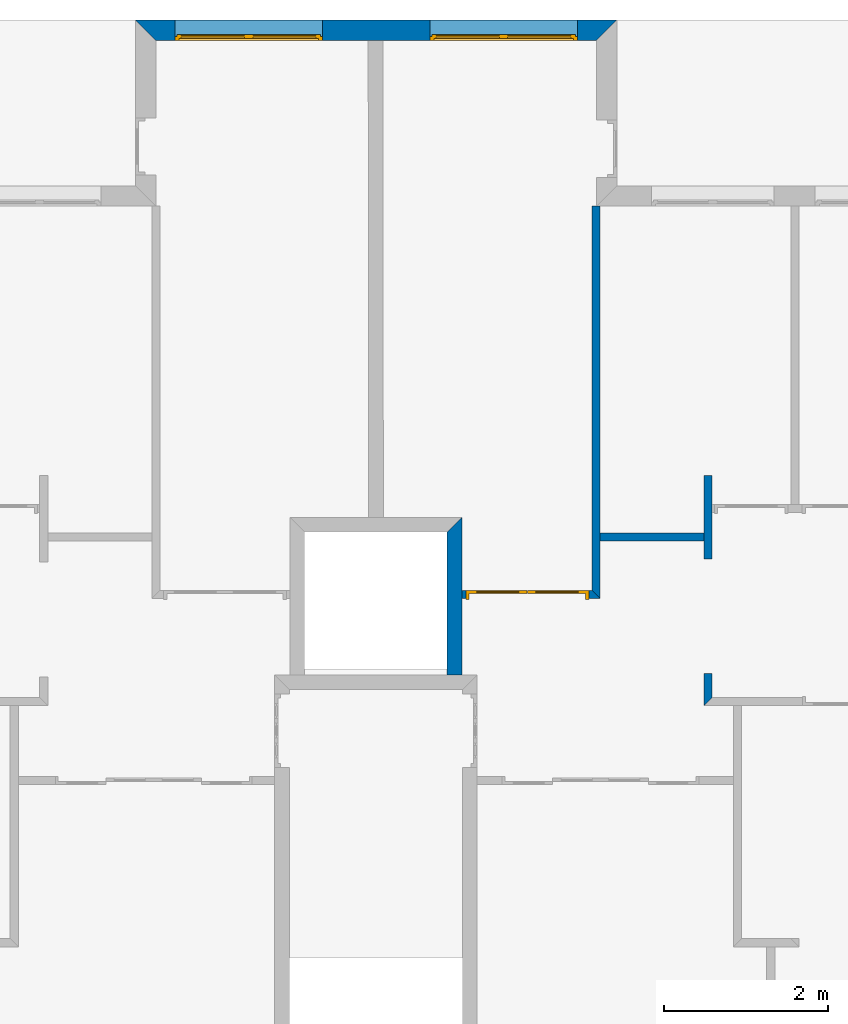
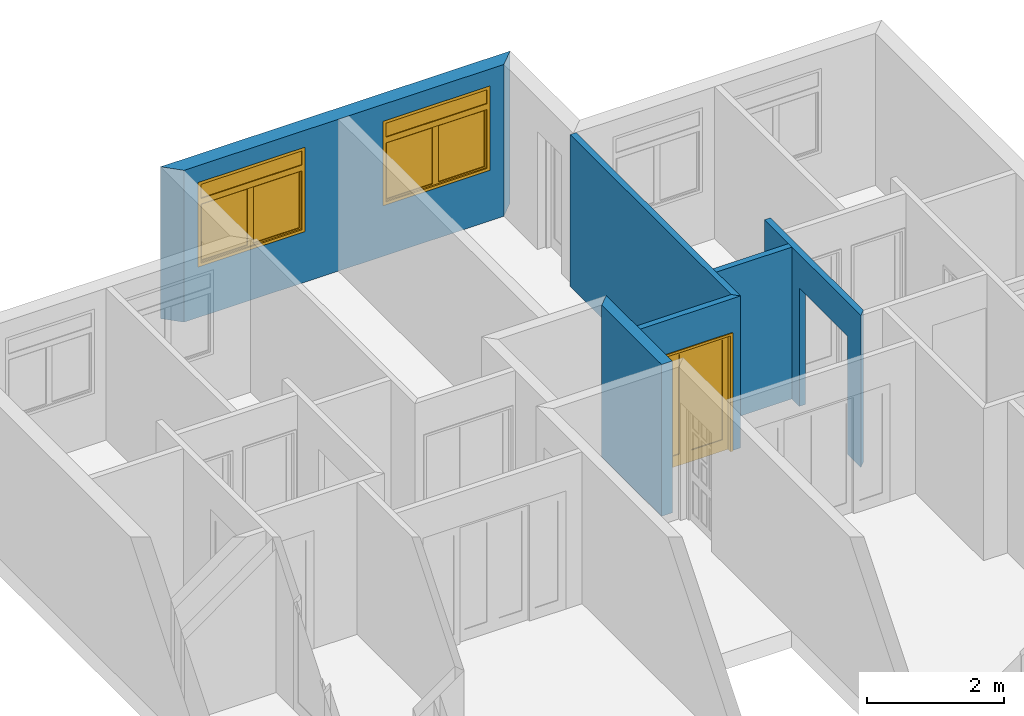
# One storey, part 11 of 12: 6 walls, 2 windows, 1 door, 4 openings.
"""IFC2X3 building model written with IfcOpenShell, lengths in metres."""

from ifc_helpers import new_model, entity, si_unit, converted_unit, direction, frame, frame_2d, origin_with_axes, place, context, project, spatial, polyline, rectangle, outline, extrude, faceted_brep, source, transform, mapped, material, layer, layer_set, layer_usage, type_object, element, fill, save


model = new_model("IFC2X3")

# Units and contexts
context_of_model = context(None, 3, precision=1e-05, world=origin_with_axes(), true_north=direction((6.123234e-17, 1.0)))
plan_context = context("Plan", 3, precision=1e-05, world=origin_with_axes(), true_north=direction((6.123234e-17, 1.0)))
model_context = context("Model", 3, precision=1e-05, world=origin_with_axes(), true_north=direction((6.123234e-17, 1.0)))
ifc_project = project(units=[si_unit("LENGTHUNIT", "METRE"), si_unit("AREAUNIT", "SQUARE_METRE"), si_unit("VOLUMEUNIT", "CUBIC_METRE"), converted_unit("PLANEANGLEUNIT", "DEGREE", entity("IfcPlaneAngleMeasure", 0.017453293), si_unit("PLANEANGLEUNIT", "RADIAN"), dimensions=[0, 0, 0, 0, 0, 0, 0]), si_unit("SOLIDANGLEUNIT", "STERADIAN"), si_unit("MASSUNIT", "GRAM"), si_unit("TIMEUNIT", "SECOND"), si_unit("THERMODYNAMICTEMPERATUREUNIT", "DEGREE_CELSIUS"), si_unit("LUMINOUSINTENSITYUNIT", "LUMEN")], contexts=[context_of_model, plan_context, model_context])

# Site, building, storey
site_placement = place(None, origin_with_axes())
site = spatial("IfcSite", under=ifc_project, at=site_placement, Name="Por defecto Sitio", CompositionType="ELEMENT")
building_placement = place(site_placement, origin_with_axes())
building = spatial("IfcBuilding", under=site, at=building_placement, Name="Por defecto Edificio", CompositionType="ELEMENT")
storey_placement = place(building_placement, frame((0.0, 0.0, 10.2), z_axis=(0.0, 0.0, 1.0), x_axis=(1.0, 0.0, 0.0)))
storey = spatial("IfcBuildingStorey", under=building, at=storey_placement, Name="Tercera", CompositionType="ELEMENT", Elevation=10.2)

# Wall, openings, windows
ifc_material = material(Name="Ladrillo común")
ifc_layer_1 = layer(ifc_material, 0.25, ventilated="UNKNOWN")
ifc_layer_set_1 = layer_set([ifc_layer_1], Name="Ladrillo común")
ifc_layer_usage_1 = layer_usage(ifc_layer_set_1, "AXIS2", "NEGATIVE", 0.0)
wall_type_1 = type_object("IfcWallType", Name="Ladrillo común", PredefinedType="NOTDEFINED")
wall_1_placement = place(storey_placement, frame((5.0781164, 15.472599, 0.0), z_axis=(0.0, 0.0, 1.0), x_axis=(1.0, 0.0, 0.0)))
wall_1 = element("IfcWallStandardCase", 1, at=wall_1_placement, inside=storey, type_object=wall_type_1, material=ifc_layer_usage_1, Name="Muro-014", context=context_of_model, shape_type="SweptSolid", body=[
    extrude(outline(polyline([(0.25, -0.25), (5.627937, -0.25), (5.877937, 0.0), (0.0, 0.0), (0.25, -0.25)])), origin_with_axes(), (0.0, 0.0, 1.0), 2.7),
])
opening_1_placement = place(wall_1_placement, frame((1.3828517, -0.25, 0.9), z_axis=(0.0, 0.0, 1.0), x_axis=(1.0, 0.0, 0.0)))
opening_1 = element("IfcOpeningElement", 2, at=opening_1_placement, cuts=wall_1, ObjectType="Opening", context=model_context, shape_type="SweptSolid", body=[
    extrude(rectangle(XDim=1.8, YDim=1.5, at=frame_2d((4.4408921e-16, 0.75), x_axis=(-1.0, 0.0))), frame((0.0, 0.0, 0.0), z_axis=(0.0, 1.0, 0.0), x_axis=(-1.0, 0.0, 0.0)), (0.0, 0.0, 1.0), 0.25),
])
opening_2_placement = place(wall_1_placement, frame((4.4950854, -0.25, 0.9), z_axis=(0.0, 0.0, 1.0), x_axis=(1.0, 0.0, 0.0)))
opening_2 = element("IfcOpeningElement", 3, at=opening_2_placement, cuts=wall_1, ObjectType="Opening", context=model_context, shape_type="SweptSolid", body=[
    extrude(rectangle(XDim=1.8, YDim=1.5, at=frame_2d((0.0, 0.75), x_axis=(1.0, 0.0))), frame((0.0, 0.0, 0.0), z_axis=(0.0, 1.0, 0.0), x_axis=(-1.0, 0.0, 0.0)), (0.0, 0.0, 1.0), 0.25),
])
window_style_1 = type_object("IfcWindowStyle", Name="V M Doble 12", ConstructionType="NOTDEFINED", OperationType="DOUBLE_PANEL_HORIZONTAL", ParameterTakesPrecedence=False, Sizeable=False)
shared_shape_1 = source(origin_with_axes(), model_context, "Body", "Brep", [
    faceted_brep([(0.025, 0.05, 0.05), (0.0, 0.05, 0.05), (0.0, 0.05, 1.45), (0.05, 0.05, 1.45), (0.05, 0.05, 1.2), (0.05, 0.05, 1.125), (0.025, 0.05, 1.125), (0.025, 0.025, 0.05), (0.05, 0.025, 0.05), (0.05, 0.0, 0.05), (0.0, 0.0, 0.05), (0.0, 0.0, 1.45), (0.05, 0.0, 1.45), (0.05, 0.0, 1.2), (0.05, 0.025, 1.125), (0.05, 0.0, 1.1), (0.05, 0.025, 1.1), (0.025, 0.025, 1.125)], [[[0, 1, 2, 3, 4, 5, 6]], [[7, 8, 9, 10, 1, 0]], [[2, 1, 10, 11]], [[3, 2, 11, 12]], [[4, 3, 12, 13]], [[14, 5, 4, 13, 15, 16]], [[14, 17, 6, 5]], [[6, 17, 7, 0]], [[16, 8, 7, 17, 14]], [[16, 15, 9, 8]], [[13, 12, 11, 10, 9, 15]]]),
    faceted_brep([(1.775, 0.05, 1.125), (1.75, 0.05, 1.125), (1.75, 0.05, 1.2), (1.75, 0.05, 1.45), (1.8, 0.05, 1.45), (1.8, 0.05, 0.05), (1.775, 0.05, 0.05), (1.775, 0.025, 1.125), (1.75, 0.025, 1.125), (1.75, 0.025, 1.1), (1.75, 0.0, 1.1), (1.75, 0.0, 1.2), (1.75, 0.0, 1.45), (1.8, 0.0, 1.45), (1.8, 0.0, 0.05), (1.775, 0.025, 0.05), (1.75, 0.0, 0.05), (1.75, 0.025, 0.05)], [[[0, 1, 2, 3, 4, 5, 6]], [[0, 7, 8, 1]], [[8, 9, 10, 11, 2, 1]], [[3, 2, 11, 12]], [[4, 3, 12, 13]], [[5, 4, 13, 14]], [[15, 6, 5, 14, 16, 17]], [[6, 15, 7, 0]], [[17, 9, 8, 7, 15]], [[17, 16, 10, 9]], [[14, 13, 12, 11, 10, 16]]]),
    faceted_brep([(0.05, 0.05, 1.125), (0.05, 0.05, 1.2), (1.75, 0.05, 1.2), (1.75, 0.05, 1.125), (0.9, 0.05, 1.125), (0.05, 0.025, 1.125), (0.05, 0.025, 1.1), (0.05, 0.0, 1.1), (0.05, 0.0, 1.2), (1.75, 0.0, 1.2), (1.75, 0.025, 1.125), (1.75, 0.0, 1.1), (1.75, 0.025, 1.1), (0.9, 0.025, 1.125)], [[[0, 1, 2, 3, 4]], [[5, 6, 7, 8, 1, 0]], [[2, 1, 8, 9]], [[10, 3, 2, 9, 11, 12]], [[10, 13, 4, 3]], [[4, 13, 5, 0]], [[12, 6, 5, 13, 10]], [[12, 11, 7, 6]], [[9, 8, 7, 11]]]),
    faceted_brep([(1.75, 0.025, 0.05), (1.75, 0.0, 0.05), (1.8, 0.0, 0.05), (1.8, 0.05, 0.05), (1.775, 0.05, 0.05), (1.775, 0.025, 0.05), (0.05, 0.025, 0.05), (0.05, 0.0, 0.05), (0.0, 0.0, 0.05), (0.0, 0.0, 0.0), (1.8, 0.0, 0.0), (1.8, 0.05, 0.0), (0.025, 0.05, 0.025), (0.9, 0.05, 0.025), (1.775, 0.05, 0.025), (0.0, 0.05, 0.0), (0.0, 0.05, 0.05), (0.025, 0.05, 0.05), (1.775, 0.025, 0.025), (0.9, 0.025, 0.025), (0.025, 0.025, 0.025), (0.025, 0.025, 0.05)], [[[0, 1, 2, 3, 4, 5]], [[6, 7, 1, 0]], [[8, 9, 10, 2, 1, 7]], [[11, 3, 2, 10]], [[12, 13, 14, 4, 3, 11, 15, 16, 17]], [[14, 18, 5, 4]], [[5, 18, 19, 20, 21, 6, 0]], [[21, 17, 16, 8, 7, 6]], [[16, 15, 9, 8]], [[15, 11, 10, 9]], [[12, 20, 19, 13]], [[13, 19, 18, 14]], [[21, 20, 12, 17]]]),
    faceted_brep([(1.75, 0.0, 1.45), (1.75, 0.05, 1.45), (1.8, 0.05, 1.45), (1.8, 0.0, 1.45), (0.05, 0.0, 1.45), (0.05, 0.05, 1.45), (0.0, 0.05, 1.45), (0.0, 0.05, 1.5), (1.8, 0.05, 1.5), (1.8, 0.0, 1.5), (0.0, 0.0, 1.5), (0.0, 0.0, 1.45)], [[[0, 1, 2, 3]], [[4, 5, 1, 0]], [[1, 5, 6, 7, 8, 2]], [[3, 2, 8, 9]], [[0, 3, 9, 10, 11, 4]], [[11, 6, 5, 4]], [[10, 7, 6, 11]], [[9, 8, 7, 10]]]),
    faceted_brep([(1.725, 0.025, 0.075), (1.725, 0.025, 1.075), (1.725, 0.075, 1.075), (1.725, 0.075, 0.075), (1.775, 0.025, 0.075), (1.775, 0.025, 1.075), (1.775, 0.075, 1.075), (1.775, 0.075, 0.075)], [[[0, 1, 2, 3]], [[0, 4, 5, 1]], [[1, 5, 6, 2]], [[3, 2, 6, 7]], [[4, 0, 3, 7]], [[5, 4, 7, 6]]]),
    faceted_brep([(0.9, 0.025, 0.075), (0.9, 0.025, 1.075), (0.9, 0.075, 1.075), (0.9, 0.075, 0.075), (0.95, 0.025, 0.075), (0.95, 0.025, 1.075), (0.95, 0.075, 1.075), (0.95, 0.075, 0.075)], [[[0, 1, 2, 3]], [[0, 4, 5, 1]], [[1, 5, 6, 2]], [[3, 2, 6, 7]], [[4, 0, 3, 7]], [[5, 4, 7, 6]]]),
    faceted_brep([(0.9, 0.025, 0.025), (0.9, 0.025, 0.075), (0.9, 0.075, 0.075), (0.9, 0.075, 0.025), (1.775, 0.025, 0.025), (1.775, 0.025, 0.075), (1.725, 0.025, 0.075), (0.95, 0.025, 0.075), (0.95, 0.075, 0.075), (1.725, 0.075, 0.075), (1.775, 0.075, 0.075), (1.775, 0.075, 0.025)], [[[0, 1, 2, 3]], [[0, 4, 5, 6, 7, 1]], [[1, 7, 8, 2]], [[3, 2, 8, 9, 10, 11]], [[4, 0, 3, 11]], [[5, 4, 11, 10]], [[6, 5, 10, 9]], [[7, 6, 9, 8]]]),
    faceted_brep([(1.775, 0.025, 1.125), (1.775, 0.025, 1.075), (1.775, 0.075, 1.075), (1.775, 0.075, 1.125), (0.9, 0.025, 1.125), (0.9, 0.025, 1.075), (0.95, 0.025, 1.075), (1.725, 0.025, 1.075), (1.725, 0.075, 1.075), (0.95, 0.075, 1.075), (0.9, 0.075, 1.075), (0.9, 0.075, 1.125)], [[[0, 1, 2, 3]], [[0, 4, 5, 6, 7, 1]], [[1, 7, 8, 2]], [[3, 2, 8, 9, 10, 11]], [[4, 0, 3, 11]], [[5, 4, 11, 10]], [[6, 5, 10, 9]], [[7, 6, 9, 8]]]),
    faceted_brep([(1.725, 0.04, 0.075), (0.95, 0.04, 0.075), (0.95, 0.06, 0.075), (1.725, 0.06, 0.075), (1.725, 0.04, 1.075), (0.95, 0.04, 1.075), (0.95, 0.06, 1.075), (1.725, 0.06, 1.075)], [[[0, 1, 2, 3]], [[0, 4, 5, 1]], [[1, 5, 6, 2]], [[3, 2, 6, 7]], [[4, 0, 3, 7]], [[5, 4, 7, 6]]]),
    faceted_brep([(0.85, 0.025, 0.075), (0.85, 0.025, 1.075), (0.85, 0.075, 1.075), (0.85, 0.075, 0.075), (0.9, 0.025, 0.075), (0.9, 0.025, 1.075), (0.9, 0.075, 1.075), (0.9, 0.075, 0.075)], [[[0, 1, 2, 3]], [[0, 4, 5, 1]], [[1, 5, 6, 2]], [[3, 2, 6, 7]], [[4, 0, 3, 7]], [[5, 4, 7, 6]]]),
    faceted_brep([(0.025, 0.025, 0.075), (0.025, 0.025, 1.075), (0.025, 0.075, 1.075), (0.025, 0.075, 0.075), (0.075, 0.025, 0.075), (0.075, 0.025, 1.075), (0.075, 0.075, 1.075), (0.075, 0.075, 0.075)], [[[0, 1, 2, 3]], [[0, 4, 5, 1]], [[1, 5, 6, 2]], [[3, 2, 6, 7]], [[4, 0, 3, 7]], [[5, 4, 7, 6]]]),
    faceted_brep([(0.025, 0.025, 0.025), (0.025, 0.025, 0.075), (0.025, 0.075, 0.075), (0.025, 0.075, 0.025), (0.9, 0.025, 0.025), (0.9, 0.025, 0.075), (0.85, 0.025, 0.075), (0.075, 0.025, 0.075), (0.075, 0.075, 0.075), (0.85, 0.075, 0.075), (0.9, 0.075, 0.075), (0.9, 0.075, 0.025)], [[[0, 1, 2, 3]], [[0, 4, 5, 6, 7, 1]], [[1, 7, 8, 2]], [[3, 2, 8, 9, 10, 11]], [[4, 0, 3, 11]], [[5, 4, 11, 10]], [[6, 5, 10, 9]], [[7, 6, 9, 8]]]),
    faceted_brep([(0.9, 0.025, 1.125), (0.9, 0.025, 1.075), (0.9, 0.075, 1.075), (0.9, 0.075, 1.125), (0.025, 0.025, 1.125), (0.025, 0.025, 1.075), (0.075, 0.025, 1.075), (0.85, 0.025, 1.075), (0.85, 0.075, 1.075), (0.075, 0.075, 1.075), (0.025, 0.075, 1.075), (0.025, 0.075, 1.125)], [[[0, 1, 2, 3]], [[0, 4, 5, 6, 7, 1]], [[1, 7, 8, 2]], [[3, 2, 8, 9, 10, 11]], [[4, 0, 3, 11]], [[5, 4, 11, 10]], [[6, 5, 10, 9]], [[7, 6, 9, 8]]]),
    faceted_brep([(0.85, 0.04, 0.075), (0.075, 0.04, 0.075), (0.075, 0.06, 0.075), (0.85, 0.06, 0.075), (0.85, 0.04, 1.075), (0.075, 0.04, 1.075), (0.075, 0.06, 1.075), (0.85, 0.06, 1.075)], [[[0, 1, 2, 3]], [[0, 4, 5, 1]], [[1, 5, 6, 2]], [[3, 2, 6, 7]], [[4, 0, 3, 7]], [[5, 4, 7, 6]]]),
    faceted_brep([(1.75, 0.015, 1.2), (0.05, 0.015, 1.2), (0.05, 0.035, 1.2), (1.75, 0.035, 1.2), (1.75, 0.015, 1.45), (0.05, 0.015, 1.45), (0.05, 0.035, 1.45), (1.75, 0.035, 1.45)], [[[0, 1, 2, 3]], [[0, 4, 5, 1]], [[1, 5, 6, 2]], [[3, 2, 6, 7]], [[4, 0, 3, 7]], [[5, 4, 7, 6]]]),
])
window_1_placement = place(opening_1_placement, frame((-0.9, 0.0, 0.0), z_axis=(0.0, 0.0, 1.0), x_axis=(1.0, 0.0, 0.0)))
window_1 = element("IfcWindow", 4, at=window_1_placement, inside=storey, type_object=window_style_1, Name="V03", OverallHeight=1.5, OverallWidth=1.8, context=model_context, shape_type="MappedRepresentation", body=[
    mapped(shared_shape_1, transform((0.0, 0.0, 0.0), scale=1.0)),
])
fill(opening_1, window_1)
window_style_2 = type_object("IfcWindowStyle", Name="V M Doble 12", ConstructionType="NOTDEFINED", OperationType="DOUBLE_PANEL_HORIZONTAL", ParameterTakesPrecedence=False, Sizeable=False)
shared_shape_2 = source(origin_with_axes(), model_context, "Body", "Brep", [
    faceted_brep([(1.775, 0.05, 0.05), (1.775, 0.05, 1.125), (1.75, 0.05, 1.125), (1.75, 0.05, 1.2), (1.75, 0.05, 1.45), (1.8, 0.05, 1.45), (1.8, 0.05, 0.05), (1.775, 0.025, 0.05), (1.775, 0.025, 1.125), (1.75, 0.025, 1.125), (1.75, 0.025, 1.1), (1.75, 0.0, 1.1), (1.75, 0.0, 1.2), (1.75, 0.0, 1.45), (1.8, 0.0, 1.45), (1.8, 0.0, 0.05), (1.75, 0.0, 0.05), (1.75, 0.025, 0.05)], [[[0, 1, 2, 3, 4, 5, 6]], [[1, 0, 7, 8]], [[9, 2, 1, 8]], [[9, 10, 11, 12, 3, 2]], [[3, 12, 13, 4]], [[4, 13, 14, 5]], [[5, 14, 15, 6]], [[7, 0, 6, 15, 16, 17]], [[10, 9, 8, 7, 17]], [[10, 17, 16, 11]], [[12, 11, 16, 15, 14, 13]]]),
    faceted_brep([(0.025, 0.05, 1.125), (0.025, 0.05, 0.05), (0.0, 0.05, 0.05), (0.0, 0.05, 1.45), (0.05, 0.05, 1.45), (0.05, 0.05, 1.2), (0.05, 0.05, 1.125), (0.025, 0.025, 1.125), (0.025, 0.025, 0.05), (0.05, 0.025, 0.05), (0.05, 0.0, 0.05), (0.0, 0.0, 0.05), (0.0, 0.0, 1.45), (0.05, 0.0, 1.45), (0.05, 0.0, 1.2), (0.05, 0.025, 1.125), (0.05, 0.0, 1.1), (0.05, 0.025, 1.1)], [[[0, 1, 2, 3, 4, 5, 6]], [[1, 0, 7, 8]], [[8, 9, 10, 11, 2, 1]], [[2, 11, 12, 3]], [[3, 12, 13, 4]], [[4, 13, 14, 5]], [[15, 6, 5, 14, 16, 17]], [[0, 6, 15, 7]], [[9, 8, 7, 15, 17]], [[9, 17, 16, 10]], [[11, 10, 16, 14, 13, 12]]]),
    faceted_brep([(1.75, 0.05, 1.125), (0.9, 0.05, 1.125), (0.05, 0.05, 1.125), (0.05, 0.05, 1.2), (1.75, 0.05, 1.2), (1.75, 0.025, 1.125), (0.9, 0.025, 1.125), (0.05, 0.025, 1.125), (0.05, 0.025, 1.1), (0.05, 0.0, 1.1), (0.05, 0.0, 1.2), (1.75, 0.0, 1.2), (1.75, 0.0, 1.1), (1.75, 0.025, 1.1)], [[[0, 1, 2, 3, 4]], [[1, 0, 5, 6]], [[7, 2, 1, 6]], [[7, 8, 9, 10, 3, 2]], [[3, 10, 11, 4]], [[5, 0, 4, 11, 12, 13]], [[8, 7, 6, 5, 13]], [[8, 13, 12, 9]], [[10, 9, 12, 11]]]),
    faceted_brep([(0.05, 0.025, 0.05), (0.025, 0.025, 0.05), (0.025, 0.05, 0.05), (0.0, 0.05, 0.05), (0.0, 0.0, 0.05), (0.05, 0.0, 0.05), (1.75, 0.025, 0.05), (1.775, 0.025, 0.05), (1.775, 0.025, 0.025), (0.9, 0.025, 0.025), (0.025, 0.025, 0.025), (0.025, 0.05, 0.025), (1.775, 0.05, 0.025), (1.775, 0.05, 0.05), (1.8, 0.05, 0.05), (1.8, 0.05, 0.0), (0.0, 0.05, 0.0), (0.9, 0.05, 0.025), (0.0, 0.0, 0.0), (1.8, 0.0, 0.05), (1.75, 0.0, 0.05), (1.8, 0.0, 0.0)], [[[0, 1, 2, 3, 4, 5]], [[1, 0, 6, 7, 8, 9, 10]], [[11, 2, 1, 10]], [[12, 13, 14, 15, 16, 3, 2, 11, 17]], [[16, 18, 4, 3]], [[19, 20, 5, 4, 18, 21]], [[6, 0, 5, 20]], [[7, 6, 20, 19, 14, 13]], [[7, 13, 12, 8]], [[12, 17, 9, 8]], [[17, 11, 10, 9]], [[14, 19, 21, 15]], [[15, 21, 18, 16]]]),
    faceted_brep([(0.05, 0.0, 1.45), (0.0, 0.0, 1.45), (0.0, 0.05, 1.45), (0.05, 0.05, 1.45), (1.75, 0.0, 1.45), (1.8, 0.0, 1.45), (1.8, 0.0, 1.5), (0.0, 0.0, 1.5), (0.0, 0.05, 1.5), (1.8, 0.05, 1.5), (1.8, 0.05, 1.45), (1.75, 0.05, 1.45)], [[[0, 1, 2, 3]], [[0, 4, 5, 6, 7, 1]], [[1, 7, 8, 2]], [[3, 2, 8, 9, 10, 11]], [[4, 0, 3, 11]], [[5, 4, 11, 10]], [[6, 5, 10, 9]], [[7, 6, 9, 8]]]),
    faceted_brep([(0.075, 0.025, 0.075), (0.075, 0.075, 0.075), (0.075, 0.075, 1.075), (0.075, 0.025, 1.075), (0.025, 0.025, 0.075), (0.025, 0.075, 0.075), (0.025, 0.075, 1.075), (0.025, 0.025, 1.075)], [[[0, 1, 2, 3]], [[4, 5, 1, 0]], [[1, 5, 6, 2]], [[3, 2, 6, 7]], [[0, 3, 7, 4]], [[7, 6, 5, 4]]]),
    faceted_brep([(0.9, 0.025, 0.075), (0.9, 0.075, 0.075), (0.9, 0.075, 1.075), (0.9, 0.025, 1.075), (0.85, 0.025, 0.075), (0.85, 0.075, 0.075), (0.85, 0.075, 1.075), (0.85, 0.025, 1.075)], [[[0, 1, 2, 3]], [[4, 5, 1, 0]], [[1, 5, 6, 2]], [[3, 2, 6, 7]], [[0, 3, 7, 4]], [[7, 6, 5, 4]]]),
    faceted_brep([(0.9, 0.025, 0.025), (0.9, 0.075, 0.025), (0.9, 0.075, 0.075), (0.9, 0.025, 0.075), (0.025, 0.025, 0.025), (0.025, 0.075, 0.025), (0.025, 0.075, 0.075), (0.075, 0.075, 0.075), (0.85, 0.075, 0.075), (0.85, 0.025, 0.075), (0.075, 0.025, 0.075), (0.025, 0.025, 0.075)], [[[0, 1, 2, 3]], [[4, 5, 1, 0]], [[1, 5, 6, 7, 8, 2]], [[3, 2, 8, 9]], [[0, 3, 9, 10, 11, 4]], [[11, 6, 5, 4]], [[10, 7, 6, 11]], [[9, 8, 7, 10]]]),
    faceted_brep([(0.025, 0.025, 1.125), (0.025, 0.075, 1.125), (0.025, 0.075, 1.075), (0.025, 0.025, 1.075), (0.9, 0.025, 1.125), (0.9, 0.075, 1.125), (0.9, 0.075, 1.075), (0.85, 0.075, 1.075), (0.075, 0.075, 1.075), (0.075, 0.025, 1.075), (0.85, 0.025, 1.075), (0.9, 0.025, 1.075)], [[[0, 1, 2, 3]], [[4, 5, 1, 0]], [[1, 5, 6, 7, 8, 2]], [[3, 2, 8, 9]], [[0, 3, 9, 10, 11, 4]], [[11, 6, 5, 4]], [[10, 7, 6, 11]], [[9, 8, 7, 10]]]),
    faceted_brep([(0.075, 0.04, 0.075), (0.075, 0.06, 0.075), (0.85, 0.06, 0.075), (0.85, 0.04, 0.075), (0.075, 0.04, 1.075), (0.075, 0.06, 1.075), (0.85, 0.06, 1.075), (0.85, 0.04, 1.075)], [[[0, 1, 2, 3]], [[4, 5, 1, 0]], [[1, 5, 6, 2]], [[3, 2, 6, 7]], [[0, 3, 7, 4]], [[7, 6, 5, 4]]]),
    faceted_brep([(0.95, 0.025, 0.075), (0.95, 0.075, 0.075), (0.95, 0.075, 1.075), (0.95, 0.025, 1.075), (0.9, 0.025, 0.075), (0.9, 0.075, 0.075), (0.9, 0.075, 1.075), (0.9, 0.025, 1.075)], [[[0, 1, 2, 3]], [[4, 5, 1, 0]], [[1, 5, 6, 2]], [[3, 2, 6, 7]], [[0, 3, 7, 4]], [[7, 6, 5, 4]]]),
    faceted_brep([(1.775, 0.025, 0.075), (1.775, 0.075, 0.075), (1.775, 0.075, 1.075), (1.775, 0.025, 1.075), (1.725, 0.025, 0.075), (1.725, 0.075, 0.075), (1.725, 0.075, 1.075), (1.725, 0.025, 1.075)], [[[0, 1, 2, 3]], [[4, 5, 1, 0]], [[1, 5, 6, 2]], [[3, 2, 6, 7]], [[0, 3, 7, 4]], [[7, 6, 5, 4]]]),
    faceted_brep([(1.775, 0.025, 0.025), (1.775, 0.075, 0.025), (1.775, 0.075, 0.075), (1.775, 0.025, 0.075), (0.9, 0.025, 0.025), (0.9, 0.075, 0.025), (0.9, 0.075, 0.075), (0.95, 0.075, 0.075), (1.725, 0.075, 0.075), (1.725, 0.025, 0.075), (0.95, 0.025, 0.075), (0.9, 0.025, 0.075)], [[[0, 1, 2, 3]], [[4, 5, 1, 0]], [[1, 5, 6, 7, 8, 2]], [[3, 2, 8, 9]], [[0, 3, 9, 10, 11, 4]], [[11, 6, 5, 4]], [[10, 7, 6, 11]], [[9, 8, 7, 10]]]),
    faceted_brep([(0.9, 0.025, 1.125), (0.9, 0.075, 1.125), (0.9, 0.075, 1.075), (0.9, 0.025, 1.075), (1.775, 0.025, 1.125), (1.775, 0.075, 1.125), (1.775, 0.075, 1.075), (1.725, 0.075, 1.075), (0.95, 0.075, 1.075), (0.95, 0.025, 1.075), (1.725, 0.025, 1.075), (1.775, 0.025, 1.075)], [[[0, 1, 2, 3]], [[4, 5, 1, 0]], [[1, 5, 6, 7, 8, 2]], [[3, 2, 8, 9]], [[0, 3, 9, 10, 11, 4]], [[11, 6, 5, 4]], [[10, 7, 6, 11]], [[9, 8, 7, 10]]]),
    faceted_brep([(0.95, 0.04, 0.075), (0.95, 0.06, 0.075), (1.725, 0.06, 0.075), (1.725, 0.04, 0.075), (0.95, 0.04, 1.075), (0.95, 0.06, 1.075), (1.725, 0.06, 1.075), (1.725, 0.04, 1.075)], [[[0, 1, 2, 3]], [[4, 5, 1, 0]], [[1, 5, 6, 2]], [[3, 2, 6, 7]], [[0, 3, 7, 4]], [[7, 6, 5, 4]]]),
    faceted_brep([(0.05, 0.015, 1.2), (0.05, 0.035, 1.2), (1.75, 0.035, 1.2), (1.75, 0.015, 1.2), (0.05, 0.015, 1.45), (0.05, 0.035, 1.45), (1.75, 0.035, 1.45), (1.75, 0.015, 1.45)], [[[0, 1, 2, 3]], [[4, 5, 1, 0]], [[1, 5, 6, 2]], [[3, 2, 6, 7]], [[0, 3, 7, 4]], [[7, 6, 5, 4]]]),
])
window_2_placement = place(opening_2_placement, frame((-0.9, 0.0, 0.0), z_axis=(0.0, 0.0, 1.0), x_axis=(1.0, 0.0, 0.0)))
window_2 = element("IfcWindow", 5, at=window_2_placement, inside=storey, type_object=window_style_2, Name="V04", OverallHeight=1.5, OverallWidth=1.8, context=model_context, shape_type="MappedRepresentation", body=[
    mapped(shared_shape_2, transform((0.0, 0.0, 0.0), scale=1.0)),
])
fill(opening_2, window_2)

# Walls
ifc_layer_2 = layer(ifc_material, 0.18, ventilated="UNKNOWN")
ifc_layer_set_2 = layer_set([ifc_layer_2], Name="Ladrillo común")
ifc_layer_usage_2 = layer_usage(ifc_layer_set_2, "AXIS2", "NEGATIVE", 0.0)
wall_type_2 = type_object("IfcWallType", Name="Ladrillo común", PredefinedType="NOTDEFINED")
wall_2_placement = place(storey_placement, frame((9.065, 9.4007615, 0.0), z_axis=(0.0, 0.0, 1.0), x_axis=(0.0, -1.0, 0.0)))
element("IfcWallStandardCase", 6, at=wall_2_placement, inside=storey, type_object=wall_type_2, material=ifc_layer_usage_2, Name="Muro-012", context=context_of_model, shape_type="SweptSolid", body=[
    extrude(outline(polyline([(0.18, -0.18), (1.9231052, -0.18), (1.9231052, 0.0), (0.0, 0.0), (0.18, -0.18)])), origin_with_axes(), (0.0, 0.0, 1.0), 2.7),
])
ifc_layer_3 = layer(ifc_material, 0.1, ventilated="UNKNOWN")
ifc_layer_set_3 = layer_set([ifc_layer_3], Name="Ladrillo común")
ifc_layer_usage_3 = layer_usage(ifc_layer_set_3, "AXIS2", "NEGATIVE", 0.0)
wall_type_3 = type_object("IfcWallType", Name="Ladrillo común", PredefinedType="NOTDEFINED")
wall_3_placement = place(storey_placement, frame((10.751884, 9.2109196, 0.0), z_axis=(0.0, 0.0, 1.0), x_axis=(1.0, 0.0, 0.0)))
element("IfcWallStandardCase", 7, at=wall_3_placement, inside=storey, type_object=wall_type_3, material=ifc_layer_usage_3, Name="Muro-027", context=context_of_model, shape_type="SweptSolid", body=[
    extrude(outline(polyline([(0.0, -0.1), (1.2679512, -0.1), (1.2679512, 0.0), (0.0, 0.0), (0.0, -0.1)])), origin_with_axes(), (0.0, 0.0, 1.0), 2.7),
])
ifc_layer_usage_4 = layer_usage(ifc_layer_set_3, "AXIS2", "POSITIVE", 0.0)
wall_4_placement = place(storey_placement, frame((10.751884, 8.5109196, 0.0), z_axis=(0.0, 0.0, 1.0), x_axis=(0.0, 1.0, 0.0)))
element("IfcWallStandardCase", 8, at=wall_4_placement, inside=storey, type_object=wall_type_3, material=ifc_layer_usage_4, Name="Muro-031", context=context_of_model, shape_type="SweptSolid", body=[
    extrude(outline(polyline([(-0.1, 0.0), (4.688253, 0.0), (4.688253, 0.1), (0.0, 0.1), (-0.1, 0.0)])), origin_with_axes(), (0.0, 0.0, 1.0), 2.7),
])

# Wall, opening
ifc_layer_usage_5 = layer_usage(ifc_layer_set_3, "AXIS2", "POSITIVE", 0.0)
wall_5_placement = place(storey_placement, frame((12.119835, 7.2022014, 0.0), z_axis=(0.0, 0.0, 1.0), x_axis=(0.0, 1.0, 0.0)))
wall_5 = element("IfcWallStandardCase", 9, at=wall_5_placement, inside=storey, type_object=wall_type_3, material=ifc_layer_usage_5, Name="Muro-025", context=context_of_model, shape_type="SweptSolid", body=[
    extrude(outline(polyline([(0.0, 0.0), (2.7087182, 0.0), (2.7087182, 0.1), (-0.1, 0.1), (0.0, 0.0)])), origin_with_axes(), (0.0, 0.0, 1.0), 2.7),
])
opening_3_placement = place(wall_5_placement, frame((0.99110899, 0.0, 0.0), z_axis=(0.0, 0.0, 1.0), x_axis=(1.0, 0.0, 0.0)))
element("IfcOpeningElement", 10, at=opening_3_placement, inside=storey, cuts=wall_5, ObjectType="Opening", context=model_context, shape_type="SweptSolid", body=[
    extrude(rectangle(XDim=1.4, YDim=2.1, at=frame_2d((4.4408921e-16, 1.05), x_axis=(-1.0, 0.0))), frame((0.0, 0.0, 0.0), z_axis=(0.0, 1.0, 0.0), x_axis=(-1.0, 0.0, 0.0)), (0.0, 0.0, 1.0), 0.1),
])

# Wall, opening, door
ifc_layer_usage_6 = layer_usage(ifc_layer_set_3, "AXIS2", "NEGATIVE", 0.0)
wall_6_placement = place(storey_placement, frame((9.065, 8.5109196, 0.0), z_axis=(0.0, 0.0, 1.0), x_axis=(1.0, 0.0, 0.0)))
wall_6 = element("IfcWallStandardCase", 11, at=wall_6_placement, inside=storey, type_object=wall_type_3, material=ifc_layer_usage_6, Name="Muro-028", context=context_of_model, shape_type="SweptSolid", body=[
    extrude(outline(polyline([(-1.7763568e-14, -0.1), (1.6868836, -0.1), (1.5868836, 0.0), (-1.7763568e-14, 0.0), (-1.7763568e-14, -0.1)])), origin_with_axes(), (0.0, 0.0, 1.0), 2.7),
])
opening_4_placement = place(wall_6_placement, frame((0.79761165, -0.1, 0.0), z_axis=(0.0, 0.0, 1.0), x_axis=(1.0, 0.0, 0.0)))
opening_4 = element("IfcOpeningElement", 12, at=opening_4_placement, cuts=wall_6, ObjectType="Opening", context=model_context, shape_type="SweptSolid", body=[
    extrude(rectangle(XDim=1.5, YDim=2.1, at=frame_2d((0.0, 1.05), x_axis=(-1.0, 0.0))), frame((0.0, 0.0, 0.0), z_axis=(0.0, 1.0, 0.0), x_axis=(-1.0, 0.0, 0.0)), (0.0, 0.0, 1.0), 0.1),
])
door_style = type_object("IfcDoorStyle", Name="P2 12", ConstructionType="NOTDEFINED", OperationType="DOUBLE_DOOR_SINGLE_SWING", ParameterTakesPrecedence=False, Sizeable=False)
shared_shape_3 = source(origin_with_axes(), model_context, "Body", "Brep", [
    faceted_brep([(0.04, 0.075, 0.0), (0.04, 0.075, 2.06), (0.04, 0.0, 2.06), (0.04, 0.0, 0.0), (0.028, 0.075, 2.06), (0.028, 0.075, 0.0), (0.028, 0.115, 2.06), (0.0, 0.115, 2.06), (0.0, 0.0, 2.06), (0.0, 0.0, 0.0), (0.0, 0.115, 0.0), (0.028, 0.115, 0.0)], [[[0, 1, 2, 3]], [[4, 1, 0, 5]], [[4, 6, 7, 8, 2, 1]], [[9, 3, 2, 8]], [[5, 0, 3, 9, 10, 11]], [[6, 4, 5, 11]], [[6, 11, 10, 7]], [[8, 7, 10, 9]]]),
    faceted_brep([(1.472, 0.075, 2.06), (1.46, 0.075, 2.06), (1.46, 0.0, 2.06), (1.5, 0.0, 2.06), (1.5, 0.115, 2.06), (1.472, 0.115, 2.06), (1.472, 0.075, 0.0), (1.46, 0.075, 0.0), (1.46, 0.0, 0.0), (1.5, 0.0, 0.0), (1.5, 0.115, 0.0), (1.472, 0.115, 0.0)], [[[0, 1, 2, 3, 4, 5]], [[1, 0, 6, 7]], [[1, 7, 8, 2]], [[8, 9, 3, 2]], [[9, 10, 4, 3]], [[11, 5, 4, 10]], [[0, 5, 11, 6]], [[6, 11, 10, 9, 8, 7]]]),
    faceted_brep([(0.028, 0.115, 2.072), (0.028, 0.115, 2.06), (0.0, 0.115, 2.06), (0.0, 0.115, 2.1), (1.5, 0.115, 2.1), (1.5, 0.115, 2.06), (1.472, 0.115, 2.06), (1.472, 0.115, 2.072), (0.028, 0.075, 2.072), (0.028, 0.075, 2.06), (0.04, 0.075, 2.06), (0.04, 0.0, 2.06), (0.0, 0.0, 2.06), (0.0, 0.0, 2.1), (1.5, 0.0, 2.1), (1.5, 0.0, 2.06), (1.472, 0.075, 2.06), (1.46, 0.0, 2.06), (1.46, 0.075, 2.06), (1.472, 0.075, 2.072)], [[[0, 1, 2, 3, 4, 5, 6, 7]], [[1, 0, 8, 9]], [[9, 10, 11, 12, 2, 1]], [[13, 3, 2, 12]], [[14, 4, 3, 13]], [[15, 5, 4, 14]], [[16, 6, 5, 15, 17, 18]], [[7, 6, 16, 19]], [[0, 7, 19, 8]], [[16, 18, 10, 9, 8, 19]], [[10, 18, 17, 11]], [[14, 13, 12, 11, 17, 15]]]),
    faceted_brep([(1.472, 0.115, 0.2), (1.472, 0.075, 0.2), (1.372, 0.075, 0.2), (1.372, 0.115, 0.2), (1.472, 0.115, 1.972), (1.472, 0.075, 1.972), (1.372, 0.075, 1.972), (1.372, 0.115, 1.972)], [[[0, 1, 2, 3]], [[4, 5, 1, 0]], [[1, 5, 6, 2]], [[3, 2, 6, 7]], [[0, 3, 7, 4]], [[7, 6, 5, 4]]]),
    faceted_brep([(0.751, 0.115, 0.2), (0.751, 0.075, 0.2), (0.751, 0.075, 1.972), (0.751, 0.115, 1.972), (0.851, 0.115, 0.2), (0.851, 0.075, 0.2), (0.851, 0.075, 1.972), (0.851, 0.115, 1.972)], [[[0, 1, 2, 3]], [[4, 5, 1, 0]], [[1, 5, 6, 2]], [[3, 2, 6, 7]], [[0, 3, 7, 4]], [[7, 6, 5, 4]]]),
    faceted_brep([(1.472, 0.115, 0.0), (1.472, 0.075, 0.0), (0.751, 0.075, 0.0), (0.751, 0.115, 0.0), (1.472, 0.115, 0.2), (1.472, 0.075, 0.2), (1.372, 0.075, 0.2), (0.851, 0.075, 0.2), (0.751, 0.075, 0.2), (0.751, 0.115, 0.2), (0.851, 0.115, 0.2), (1.372, 0.115, 0.2)], [[[0, 1, 2, 3]], [[4, 5, 1, 0]], [[1, 5, 6, 7, 8, 2]], [[3, 2, 8, 9]], [[0, 3, 9, 10, 11, 4]], [[11, 6, 5, 4]], [[10, 7, 6, 11]], [[9, 8, 7, 10]]]),
    faceted_brep([(1.472, 0.115, 2.072), (1.472, 0.075, 2.072), (1.472, 0.075, 1.972), (1.472, 0.115, 1.972), (0.751, 0.115, 2.072), (0.751, 0.075, 2.072), (0.751, 0.075, 1.972), (0.851, 0.075, 1.972), (1.372, 0.075, 1.972), (1.372, 0.115, 1.972), (0.851, 0.115, 1.972), (0.751, 0.115, 1.972)], [[[0, 1, 2, 3]], [[4, 5, 1, 0]], [[1, 5, 6, 7, 8, 2]], [[3, 2, 8, 9]], [[0, 3, 9, 10, 11, 4]], [[11, 6, 5, 4]], [[10, 7, 6, 11]], [[9, 8, 7, 10]]]),
    faceted_brep([(1.372, 0.101, 0.2), (1.372, 0.089, 0.2), (0.851, 0.089, 0.2), (0.851, 0.101, 0.2), (1.372, 0.101, 1.972), (1.372, 0.089, 1.972), (0.851, 0.089, 1.972), (0.851, 0.101, 1.972)], [[[0, 1, 2, 3]], [[4, 5, 1, 0]], [[1, 5, 6, 2]], [[3, 2, 6, 7]], [[0, 3, 7, 4]], [[7, 6, 5, 4]]]),
    faceted_brep([(0.028, 0.115, 0.2), (0.128, 0.115, 0.2), (0.128, 0.075, 0.2), (0.028, 0.075, 0.2), (0.028, 0.115, 1.972), (0.128, 0.115, 1.972), (0.128, 0.075, 1.972), (0.028, 0.075, 1.972)], [[[0, 1, 2, 3]], [[0, 4, 5, 1]], [[1, 5, 6, 2]], [[3, 2, 6, 7]], [[4, 0, 3, 7]], [[5, 4, 7, 6]]]),
    faceted_brep([(0.749, 0.115, 0.2), (0.749, 0.115, 1.972), (0.749, 0.075, 1.972), (0.749, 0.075, 0.2), (0.649, 0.115, 0.2), (0.649, 0.115, 1.972), (0.649, 0.075, 1.972), (0.649, 0.075, 0.2)], [[[0, 1, 2, 3]], [[0, 4, 5, 1]], [[1, 5, 6, 2]], [[3, 2, 6, 7]], [[4, 0, 3, 7]], [[5, 4, 7, 6]]]),
    faceted_brep([(0.028, 0.115, 0.0), (0.749, 0.115, 0.0), (0.749, 0.075, 0.0), (0.028, 0.075, 0.0), (0.028, 0.115, 0.2), (0.128, 0.115, 0.2), (0.649, 0.115, 0.2), (0.749, 0.115, 0.2), (0.749, 0.075, 0.2), (0.649, 0.075, 0.2), (0.128, 0.075, 0.2), (0.028, 0.075, 0.2)], [[[0, 1, 2, 3]], [[0, 4, 5, 6, 7, 1]], [[1, 7, 8, 2]], [[3, 2, 8, 9, 10, 11]], [[4, 0, 3, 11]], [[5, 4, 11, 10]], [[6, 5, 10, 9]], [[7, 6, 9, 8]]]),
    faceted_brep([(0.028, 0.115, 2.072), (0.028, 0.115, 1.972), (0.028, 0.075, 1.972), (0.028, 0.075, 2.072), (0.749, 0.115, 2.072), (0.749, 0.115, 1.972), (0.649, 0.115, 1.972), (0.128, 0.115, 1.972), (0.128, 0.075, 1.972), (0.649, 0.075, 1.972), (0.749, 0.075, 1.972), (0.749, 0.075, 2.072)], [[[0, 1, 2, 3]], [[0, 4, 5, 6, 7, 1]], [[1, 7, 8, 2]], [[3, 2, 8, 9, 10, 11]], [[4, 0, 3, 11]], [[5, 4, 11, 10]], [[6, 5, 10, 9]], [[7, 6, 9, 8]]]),
    faceted_brep([(0.128, 0.101, 0.2), (0.649, 0.101, 0.2), (0.649, 0.089, 0.2), (0.128, 0.089, 0.2), (0.128, 0.101, 1.972), (0.649, 0.101, 1.972), (0.649, 0.089, 1.972), (0.128, 0.089, 1.972)], [[[0, 1, 2, 3]], [[0, 4, 5, 1]], [[1, 5, 6, 2]], [[3, 2, 6, 7]], [[4, 0, 3, 7]], [[5, 4, 7, 6]]]),
])
door_placement = place(opening_4_placement, frame((-0.75, -0.015, 0.0), z_axis=(0.0, 0.0, 1.0), x_axis=(1.0, 0.0, 0.0)))
door = element("IfcDoor", 13, at=door_placement, inside=storey, type_object=door_style, Name="P27", OverallHeight=2.1, OverallWidth=1.5, context=model_context, shape_type="MappedRepresentation", body=[
    mapped(shared_shape_3, transform((0.0, 0.0, 0.0), scale=1.0)),
])
fill(opening_4, door)

save(model, "model.ifc")
